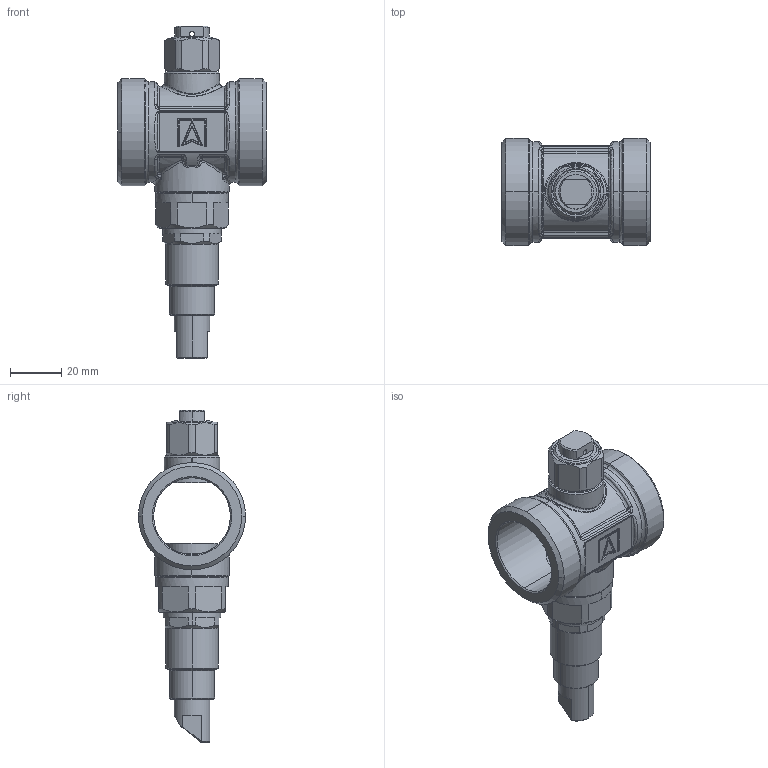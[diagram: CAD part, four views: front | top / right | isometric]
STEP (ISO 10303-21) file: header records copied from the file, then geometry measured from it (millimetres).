
FILE_DESCRIPTION (( 'STEP AP214' ), '1' );
FILE_NAME ('AAV300_zawor_antyzamrozeniowy_1730000_1_3D_AFRISO.STEP', '2024-03-07T09:21:23', ( '' ), ( '' ), 'SwSTEP 2.0', 'SolidWorks 2022', '' );
FILE_SCHEMA (( 'AUTOMOTIVE_DESIGN' ));
Length unit declared in the file: millimetre
Products named in the file (8): AAV300_zawor_antyzamrozeniowy_1730000_1_3D_AFRISO; 25000; 23492; 23493; 23490.S1; 23487; 41287; 23558
Assembly tree (7 placements, depth 2):
  AAV300_zawor_antyzamrozeniowy_1730000_1_3D_AFRISO
    41287
    23487
    23490.S1
    23558
    23492
    23493
    25000
Bounding box: 58 x 41.91 x 129.8 mm (x, y, z)
Volume: 24442.5 mm3; surface area: 34340.7 mm2
Topology: 6 solids, 7 shells, 607 faces, 1434 edges, 852 vertices
Faces by surface type: cylinder 195, bspline 168, plane 128, cone 116
Entity records: 25621 total; most frequent: CARTESIAN_POINT 11185, ORIENTED_EDGE 2836, DIRECTION 2691, EDGE_CURVE 1420, AXIS2_PLACEMENT_3D 1120, VERTEX_POINT 852, CIRCLE 670, EDGE_LOOP 650
